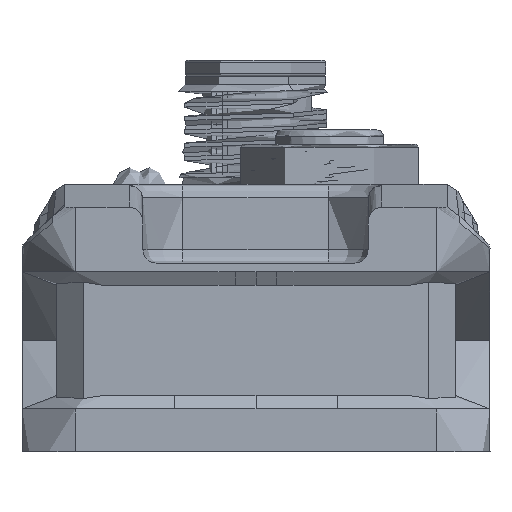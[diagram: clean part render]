
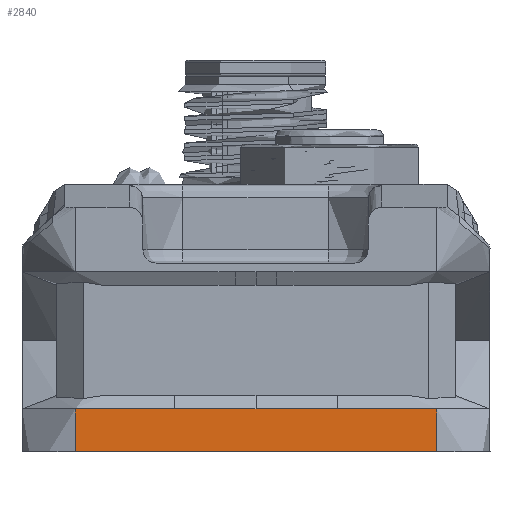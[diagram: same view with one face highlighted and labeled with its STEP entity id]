
A CAD part, front view. The second image highlights one B-rep face of the part: STEP entity #2840.
In plain terms, the highlighted planar face has unit normal (0, -1, 0).
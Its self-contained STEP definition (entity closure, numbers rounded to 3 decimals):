
#922=B_SPLINE_CURVE_WITH_KNOTS('',3,(#40759,#40760,#40761,#40762),
 .UNSPECIFIED.,.F.,.F.,(4,4),(0.,1.),.UNSPECIFIED.);
#927=B_SPLINE_CURVE_WITH_KNOTS('',3,(#42107,#42108,#42109,#42110),
 .UNSPECIFIED.,.F.,.F.,(4,4),(0.,1.),.UNSPECIFIED.);
#928=B_SPLINE_CURVE_WITH_KNOTS('',3,(#42112,#42113,#42114,#42115,#42116,
#42117),.UNSPECIFIED.,.F.,.F.,(4,2,4),(0.,0.258,1.),
 .UNSPECIFIED.);
#929=B_SPLINE_CURVE_WITH_KNOTS('',3,(#42119,#42120,#42121,#42122,#42123,
#42124),.UNSPECIFIED.,.F.,.F.,(4,2,4),(0.,0.258,1.),
 .UNSPECIFIED.);
#1878=FACE_OUTER_BOUND('',#4473,.T.);
#2840=ADVANCED_FACE('',(#1878),#3697,.T.);
#3697=PLANE('',#18125);
#4473=EDGE_LOOP('',(#7767,#7768,#7769,#7770,#7771,#7772,#7773));
#7767=ORIENTED_EDGE('',*,*,#13013,.F.);
#7768=ORIENTED_EDGE('',*,*,#13876,.F.);
#7769=ORIENTED_EDGE('',*,*,#13877,.F.);
#7770=ORIENTED_EDGE('',*,*,#13878,.F.);
#7771=ORIENTED_EDGE('',*,*,#13879,.T.);
#7772=ORIENTED_EDGE('',*,*,#13863,.T.);
#7773=ORIENTED_EDGE('',*,*,#13875,.T.);
#11283=VERTEX_POINT('',#24880);
#11284=VERTEX_POINT('',#24882);
#11836=VERTEX_POINT('',#40646);
#11838=VERTEX_POINT('',#40758);
#11847=VERTEX_POINT('',#42106);
#11848=VERTEX_POINT('',#42111);
#11849=VERTEX_POINT('',#42118);
#13013=EDGE_CURVE('',#11283,#11284,#15564,.T.);
#13863=EDGE_CURVE('',#11836,#11838,#922,.T.);
#13875=EDGE_CURVE('',#11838,#11284,#15941,.T.);
#13876=EDGE_CURVE('',#11847,#11283,#15942,.T.);
#13877=EDGE_CURVE('',#11848,#11847,#927,.T.);
#13878=EDGE_CURVE('',#11849,#11848,#928,.T.);
#13879=EDGE_CURVE('',#11849,#11836,#929,.T.);
#15564=LINE('',#24881,#16716);
#15941=LINE('',#42103,#17093);
#15942=LINE('',#42105,#17094);
#16716=VECTOR('',#19568,1.);
#17093=VECTOR('',#20503,1.);
#17094=VECTOR('',#20506,1.);
#18125=AXIS2_PLACEMENT_3D('',#42125,#20507,#20508);
#19568=DIRECTION('',(-1.,0.,0.));
#20503=DIRECTION('',(0.,0.,-1.));
#20506=DIRECTION('',(0.,0.,-1.));
#20507=DIRECTION('',(0.,-1.,0.));
#20508=DIRECTION('',(-1.,0.,0.));
#24880=CARTESIAN_POINT('',(-284.462,-389.408,5.4));
#24881=CARTESIAN_POINT('',(-299.528,-389.408,5.4));
#24882=CARTESIAN_POINT('',(-311.462,-389.408,5.4));
#40646=CARTESIAN_POINT('',(-304.032,-389.408,8.615));
#40758=CARTESIAN_POINT('',(-311.462,-389.408,8.615));
#40759=CARTESIAN_POINT('',(-304.032,-389.408,8.615));
#40760=CARTESIAN_POINT('',(-306.509,-389.408,8.615));
#40761=CARTESIAN_POINT('',(-308.985,-389.408,8.616));
#40762=CARTESIAN_POINT('',(-311.462,-389.408,8.615));
#42103=CARTESIAN_POINT('',(-311.462,-389.408,1.608));
#42105=CARTESIAN_POINT('',(-284.462,-389.408,1.608));
#42106=CARTESIAN_POINT('',(-284.462,-389.408,8.615));
#42107=CARTESIAN_POINT('',(-291.892,-389.408,8.615));
#42108=CARTESIAN_POINT('',(-289.415,-389.408,8.615));
#42109=CARTESIAN_POINT('',(-286.939,-389.408,8.616));
#42110=CARTESIAN_POINT('',(-284.462,-389.408,8.615));
#42111=CARTESIAN_POINT('',(-291.892,-389.408,8.615));
#42112=CARTESIAN_POINT('',(-297.962,-389.408,8.615));
#42113=CARTESIAN_POINT('',(-297.44,-389.408,8.615));
#42114=CARTESIAN_POINT('',(-296.918,-389.408,8.615));
#42115=CARTESIAN_POINT('',(-294.895,-389.408,8.615));
#42116=CARTESIAN_POINT('',(-293.393,-389.408,8.615));
#42117=CARTESIAN_POINT('',(-291.892,-389.408,8.615));
#42118=CARTESIAN_POINT('',(-297.962,-389.408,8.615));
#42119=CARTESIAN_POINT('',(-297.962,-389.408,8.615));
#42120=CARTESIAN_POINT('',(-298.484,-389.408,8.615));
#42121=CARTESIAN_POINT('',(-299.006,-389.408,8.615));
#42122=CARTESIAN_POINT('',(-301.029,-389.408,8.615));
#42123=CARTESIAN_POINT('',(-302.531,-389.408,8.615));
#42124=CARTESIAN_POINT('',(-304.032,-389.408,8.615));
#42125=CARTESIAN_POINT('',(-284.462,-389.408,15.4));
